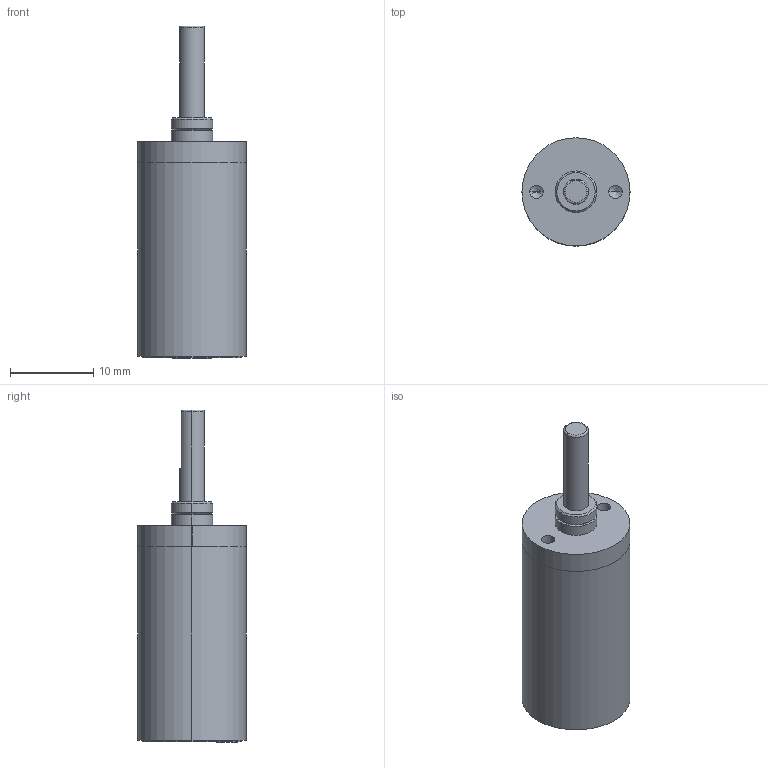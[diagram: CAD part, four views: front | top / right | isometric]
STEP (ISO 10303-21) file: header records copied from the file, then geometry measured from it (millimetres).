
FILE_DESCRIPTION (( 'STEP AP203' ), '1' );
FILE_NAME ('IG-13(I)-5stage.STEP', '2023-03-27T02:45:41', ( '' ), ( '' ), 'SwSTEP 2.0', 'SolidWorks 2019', '' );
FILE_SCHEMA (( 'CONFIG_CONTROL_DESIGN' ));
Length unit declared in the file: millimetre
Products named in the file (1): IG-13(I)-5stage
Bounding box: 13 x 13 x 39.9 mm (x, y, z)
Volume: 3840.1 mm3; surface area: 1959.9 mm2
Topology: 2 solids, 2 shells, 53 faces, 112 edges, 69 vertices
Faces by surface type: cylinder 28, plane 14, cone 8, torus 3
Entity records: 1514 total; most frequent: DIRECTION 281, CARTESIAN_POINT 249, ORIENTED_EDGE 216, AXIS2_PLACEMENT_3D 121, EDGE_CURVE 108, VERTEX_POINT 69, CIRCLE 67, EDGE_LOOP 67
